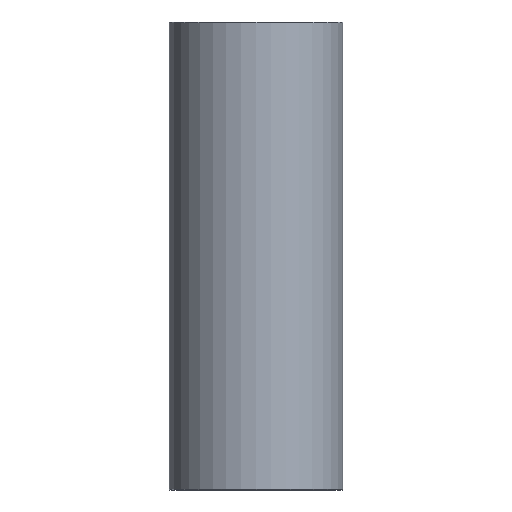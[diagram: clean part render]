
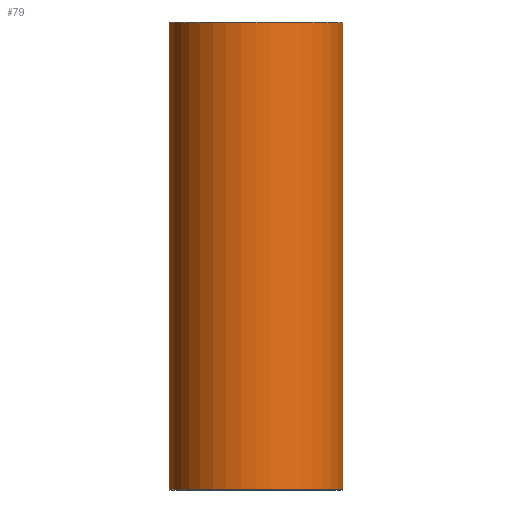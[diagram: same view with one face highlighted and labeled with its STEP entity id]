
A CAD part, front view. The second image highlights one B-rep face of the part: STEP entity #79.
In plain terms, the highlighted cylindrical face has radius 26 mm (diameter 52 mm), a full revolution.
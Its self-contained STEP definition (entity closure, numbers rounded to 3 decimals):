
#79=ADVANCED_FACE('',(#96,#97),#98,.T.);
#96=FACE_OUTER_BOUND('',#120,.T.);
#97=FACE_OUTER_BOUND('',#121,.T.);
#98=CYLINDRICAL_SURFACE('',#122,26.0);
#120=EDGE_LOOP('',(#152));
#121=EDGE_LOOP('',(#153));
#122=AXIS2_PLACEMENT_3D('',#154,#155,#156);
#152=ORIENTED_EDGE('',*,*,#178,.T.);
#153=ORIENTED_EDGE('',*,*,#177,.T.);
#154=CARTESIAN_POINT('',(0.0,0.0,140.0));
#155=DIRECTION('',(0.0,0.0,-1.0));
#156=DIRECTION('',(-1.0,0.0,0.0));
#177=EDGE_CURVE('',#190,#190,#191,.T.);
#178=EDGE_CURVE('',#192,#192,#193,.F.);
#190=VERTEX_POINT('',#206);
#191=CIRCLE('',#207,26.0);
#192=VERTEX_POINT('',#208);
#193=CIRCLE('',#209,26.0);
#206=CARTESIAN_POINT('',(26.0,0.0,0.2));
#207=AXIS2_PLACEMENT_3D('',#227,#228,#229);
#208=CARTESIAN_POINT('',(26.0,0.,139.8));
#209=AXIS2_PLACEMENT_3D('',#230,#231,#232);
#227=CARTESIAN_POINT('',(0.0,0.0,0.2));
#228=DIRECTION('',(0.0,0.0,1.0));
#229=DIRECTION('',(1.0,0.0,0.0));
#230=CARTESIAN_POINT('',(0.0,0.0,139.8));
#231=DIRECTION('',(0.0,0.0,1.0));
#232=DIRECTION('',(1.0,0.0,0.0));
